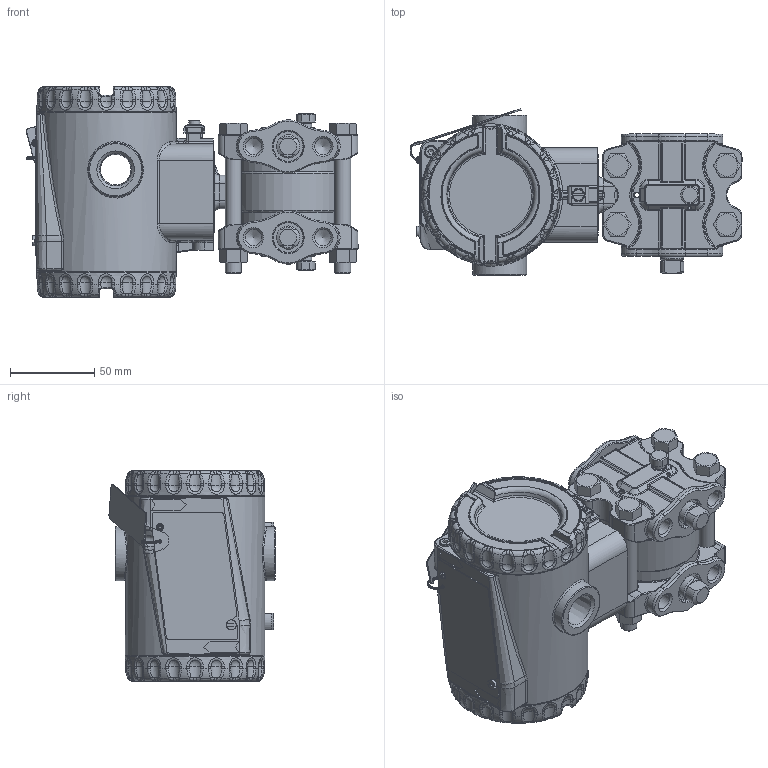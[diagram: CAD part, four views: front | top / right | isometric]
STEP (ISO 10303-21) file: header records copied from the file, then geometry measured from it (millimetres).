
FILE_DESCRIPTION(/* description */ (''),/* implementation_level */ '2;1');
FILE_NAME(/* name */ 'F:\Area\Desenvolvimento_2\Projects\Sensor\projetos\LD400-3d\dimensionais 3D clientes\LD400D0-3 1-4NPT purga abaixo.stp',/* time_stamp */ '2023-02-02T10:30:27-03:00',/* author */ ('inventor02'),/* organization */ (''),/* preprocessor_version */ 'ST-DEVELOPER v17',/* originating_system */ 'Autodesk Inventor 2019',/* authorisation */ '');
FILE_SCHEMA (('CONFIG_CONTROL_DESIGN'));
Products named in the file (29): LD400D0-3 1-4NPT purga abaixo; Carcaça 400 com tampas e plaqueta sem letras; 101-D-0845-05 carcaça LD400 sem letras; 101-B-3614-03-tampa 400 sem letras; Tampa visor 400 montada sem letras; 101-B-3612-05 tampa visor 400 sem letras; 101-A-6107; oring 2034; 00034775-0; WHW_250; DIN 915 - M6 x 10; Chapa aterramento externo; 201-A-1771-02 inserto terra recartilhado; AS 1969 - ST4,2; ISO 1207 - M4 x 8; ANSI B18.3.1M - M4x0,7 x 8; Subconjunto plaqueta 400; plaqueta 400 em branco; Parafuso da Plaqueta; Rebite da Plaqueta; 096-A-0169-03; 101-A-0502-01; diferencial FX0-3 sem adaptador; involucro fx0-3 apos a usinagem final; Sangria; bujao 1-4NPT; flange diferencial std purga; Paraf. 3-8 x 16 UNC; Porca 3-8 x 16 UNC
Assembly tree (38 placements, depth 4):
  LD400D0-3 1-4NPT purga abaixo
    Carcaça 400 com tampas e plaqueta sem letras
      101-D-0845-05 carcaça LD400 sem letras
      101-B-3614-03-tampa 400 sem letras
      Tampa visor 400 montada sem letras
        101-B-3612-05 tampa visor 400 sem letras
        101-A-6107
        oring 2034
        00034775-0
        WHW_250
      DIN 915 - M6 x 10
      Chapa aterramento externo
      201-A-1771-02 inserto terra recartilhado
      AS 1969 - ST4,2
      ISO 1207 - M4 x 8
      ANSI B18.3.1M - M4x0,7 x 8  x2
      Subconjunto plaqueta 400
        plaqueta 400 em branco
        Parafuso da Plaqueta
        Rebite da Plaqueta
        096-A-0169-03
        101-A-0502-01
    diferencial FX0-3 sem adaptador
      involucro fx0-3 apos a usinagem final
      flange diferencial std purga  x2
      bujao 1-4NPT  x2
      Sangria  x2
      Paraf. 3-8 x 16 UNC  x4
      Porca 3-8 x 16 UNC  x4
Bounding box: 197.25 x 98.64 x 125 mm (x, y, z)
Volume: 613602.9 mm3; surface area: 235200.4 mm2
Topology: 34 solids, 34 shells, 2629 faces, 6379 edges, 3805 vertices
Faces by surface type: plane 657, cylinder 639, bspline 611, torus 440, cone 211, sphere 71
Full cylindrical faces by diameter (mm): 2 x4, 2.1 x1, 2.2 x1, 2.459 x3, 2.7 x1, 3 x5, 3.242 x3, 3.571 x1, 4 x4, 4.3 x2, 4.4 x1, 4.917 x1, 5.5 x6, 6 x2, 6.1 x2, 6.2 x1, 6.647 x2, 7 x4, 7.6 x2, 7.798 x4, 8 x2, 9.525 x4, 9.728 x8, 10.5 x8, 10.719 x4, 13.8 x2, 14 x1, 18.3 x2, 18.5 x4, 32 x2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
Entity records: 80674 total; most frequent: CARTESIAN_POINT 31607, ORIENTED_EDGE 10222, DIRECTION 9956, EDGE_CURVE 5111, AXIS2_PLACEMENT_3D 4206, VERTEX_POINT 3070, CIRCLE 2409, EDGE_LOOP 2211
